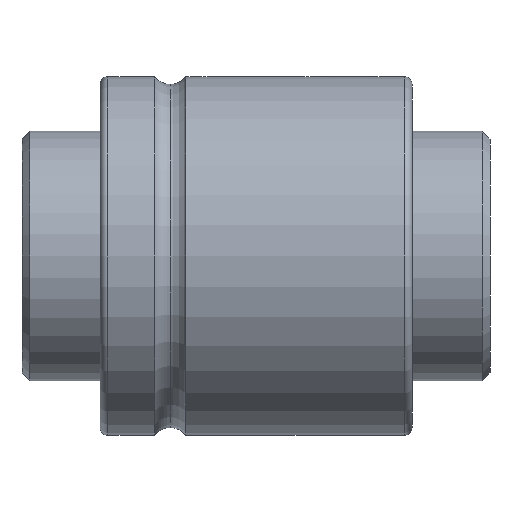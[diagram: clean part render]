
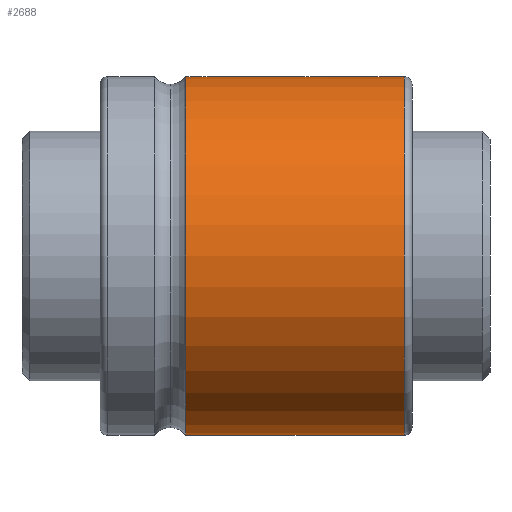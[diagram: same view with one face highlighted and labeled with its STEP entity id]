
A CAD part, front view. The second image highlights one B-rep face of the part: STEP entity #2688.
In plain terms, the highlighted cylindrical face has radius 23 mm (diameter 46 mm), a partial arc.
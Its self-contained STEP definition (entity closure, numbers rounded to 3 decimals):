
#12 = CYLINDRICAL_SURFACE ( 'NONE', #543, 23. ) ;
#80 = CARTESIAN_POINT ( 'NONE',  ( 27.5, 0., 23. ) ) ;
#94 = CARTESIAN_POINT ( 'NONE',  ( 27.193, -0.914, 22.982 ) ) ;
#124 = CARTESIAN_POINT ( 'NONE',  ( 27.5, -0.099, 23. ) ) ;
#141 = CARTESIAN_POINT ( 'NONE',  ( 26.923, -1.199, 22.969 ) ) ;
#177 = EDGE_LOOP ( 'NONE', ( #608, #1622, #1523, #950, #1438, #2061, #2363, #1037 ) ) ;
#185 = CARTESIAN_POINT ( 'NONE',  ( 14., -1.5, 22.951 ) ) ;
#415 = CARTESIAN_POINT ( 'NONE',  ( 26.756, -1.31, 22.963 ) ) ;
#417 = VERTEX_POINT ( 'NONE', #2076 ) ;
#440 = CARTESIAN_POINT ( 'NONE',  ( 26.395, -1.46, 22.954 ) ) ;
#464 = CARTESIAN_POINT ( 'NONE',  ( 27.5, 0., 23. ) ) ;
#496 = CARTESIAN_POINT ( 'NONE',  ( 13.249, -1.302, 22.963 ) ) ;
#522 = CARTESIAN_POINT ( 'NONE',  ( 12.801, -0.923, 22.982 ) ) ;
#534 = VERTEX_POINT ( 'NONE', #694 ) ;
#543 = AXIS2_PLACEMENT_3D ( 'NONE', #3304, #2310, #820 ) ;
#579 = CIRCLE ( 'NONE', #3855, 23. ) ;
#608 = ORIENTED_EDGE ( 'NONE', *, *, #3859, .F. ) ;
#653 = DIRECTION ( 'NONE',  ( -1., 0., 0. ) ) ;
#694 = CARTESIAN_POINT ( 'NONE',  ( 12.5, 0., 23. ) ) ;
#728 = CARTESIAN_POINT ( 'NONE',  ( 27.348, -0.665, 22.991 ) ) ;
#774 = CARTESIAN_POINT ( 'NONE',  ( 13.335, -1.348, 22.96 ) ) ;
#803 = DIRECTION ( 'NONE',  ( -1., 0., 0. ) ) ;
#820 = DIRECTION ( 'NONE',  ( 0., 0., 1. ) ) ;
#825 = EDGE_CURVE ( 'NONE', #3584, #534, #1677, .T. ) ;
#838 = DIRECTION ( 'NONE',  ( -1., 0., 0. ) ) ;
#899 = VERTEX_POINT ( 'NONE', #1388 ) ;
#950 = ORIENTED_EDGE ( 'NONE', *, *, #2918, .T. ) ;
#957 = CARTESIAN_POINT ( 'NONE',  ( 39., 0., 0. ) ) ;
#1023 = CARTESIAN_POINT ( 'NONE',  ( 26.198, -1.5, 22.951 ) ) ;
#1037 = ORIENTED_EDGE ( 'NONE', *, *, #3014, .T. ) ;
#1086 = CARTESIAN_POINT ( 'NONE',  ( 13.612, -1.452, 22.954 ) ) ;
#1097 = VERTEX_POINT ( 'NONE', #1329 ) ;
#1127 = CARTESIAN_POINT ( 'NONE',  ( 13.804, -1.49, 22.952 ) ) ;
#1196 = FACE_OUTER_BOUND ( 'NONE', #177, .T. ) ;
#1210 = DIRECTION ( 'NONE',  ( -1., 0., 0. ) ) ;
#1329 = CARTESIAN_POINT ( 'NONE',  ( 11., 0., -23. ) ) ;
#1388 = CARTESIAN_POINT ( 'NONE',  ( 39., 0., 23. ) ) ;
#1399 = CARTESIAN_POINT ( 'NONE',  ( 11., 0., 0. ) ) ;
#1403 = CARTESIAN_POINT ( 'NONE',  ( 12.69, -0.756, 22.988 ) ) ;
#1407 = LINE ( 'NONE', #3703, #1808 ) ;
#1438 = ORIENTED_EDGE ( 'NONE', *, *, #3305, .T. ) ;
#1471 = EDGE_CURVE ( 'NONE', #534, #3919, #1407, .T. ) ;
#1482 = VECTOR ( 'NONE', #3480, 1000. ) ;
#1523 = ORIENTED_EDGE ( 'NONE', *, *, #2375, .T. ) ;
#1575 = CARTESIAN_POINT ( 'NONE',  ( 39., 0., -23. ) ) ;
#1622 = ORIENTED_EDGE ( 'NONE', *, *, #2084, .T. ) ;
#1677 = B_SPLINE_CURVE_WITH_KNOTS ( 'NONE', 3,
 ( #3306, #2366, #1127, #1086, #3615, #774, #496, #3268, #2667, #522, #1403, #2972, #3573, #3004 ),
 .UNSPECIFIED., .F., .F.,
 ( 4, 2, 2, 2, 2, 2, 4 ),
 ( -0.002, -0.002, -0.002, -0.001, -0.001, -0.001, 0. ),
 .UNSPECIFIED. ) ;
#1709 = VECTOR ( 'NONE', #803, 1000. ) ;
#1742 = CARTESIAN_POINT ( 'NONE',  ( 40., 0., -23. ) ) ;
#1808 = VECTOR ( 'NONE', #1210, 1000. ) ;
#1813 = VECTOR ( 'NONE', #838, 1000. ) ;
#1941 = DIRECTION ( 'NONE',  ( 1., 0., 0. ) ) ;
#1979 = CARTESIAN_POINT ( 'NONE',  ( 27.49, -0.196, 22.999 ) ) ;
#2061 = ORIENTED_EDGE ( 'NONE', *, *, #825, .T. ) ;
#2076 = CARTESIAN_POINT ( 'NONE',  ( 26., -1.5, 22.951 ) ) ;
#2084 = EDGE_CURVE ( 'NONE', #2899, #899, #579, .T. ) ;
#2175 = CARTESIAN_POINT ( 'NONE',  ( 40., -1.5, 22.951 ) ) ;
#2265 = CARTESIAN_POINT ( 'NONE',  ( 27.302, -0.751, 22.988 ) ) ;
#2276 = CARTESIAN_POINT ( 'NONE',  ( 27.13, -0.991, 22.979 ) ) ;
#2310 = DIRECTION ( 'NONE',  ( -1., 0., 0. ) ) ;
#2363 = ORIENTED_EDGE ( 'NONE', *, *, #1471, .T. ) ;
#2366 = CARTESIAN_POINT ( 'NONE',  ( 13.901, -1.5, 22.951 ) ) ;
#2375 = EDGE_CURVE ( 'NONE', #899, #2561, #2668, .T. ) ;
#2561 = VERTEX_POINT ( 'NONE', #464 ) ;
#2667 = CARTESIAN_POINT ( 'NONE',  ( 13.009, -1.13, 22.972 ) ) ;
#2668 = LINE ( 'NONE', #2997, #1813 ) ;
#2688 = ADVANCED_FACE ( 'NONE', ( #1196 ), #12, .T. ) ;
#2702 = AXIS2_PLACEMENT_3D ( 'NONE', #1399, #1941, #3828 ) ;
#2889 = CARTESIAN_POINT ( 'NONE',  ( 27.423, -0.483, 22.995 ) ) ;
#2899 = VERTEX_POINT ( 'NONE', #1575 ) ;
#2918 = EDGE_CURVE ( 'NONE', #2561, #417, #3815, .T. ) ;
#2919 = CARTESIAN_POINT ( 'NONE',  ( 26., -1.5, 22.951 ) ) ;
#2931 = CARTESIAN_POINT ( 'NONE',  ( 27.452, -0.388, 22.997 ) ) ;
#2972 = CARTESIAN_POINT ( 'NONE',  ( 12.54, -0.395, 22.997 ) ) ;
#2997 = CARTESIAN_POINT ( 'NONE',  ( 40., 0., 23. ) ) ;
#3004 = CARTESIAN_POINT ( 'NONE',  ( 12.5, 0., 23. ) ) ;
#3014 = EDGE_CURVE ( 'NONE', #3919, #1097, #3621, .T. ) ;
#3268 = CARTESIAN_POINT ( 'NONE',  ( 13.086, -1.193, 22.969 ) ) ;
#3304 = CARTESIAN_POINT ( 'NONE',  ( 40., 0., 0. ) ) ;
#3305 = EDGE_CURVE ( 'NONE', #417, #3584, #3474, .T. ) ;
#3306 = CARTESIAN_POINT ( 'NONE',  ( 14., -1.5, 22.951 ) ) ;
#3331 = LINE ( 'NONE', #1742, #1709 ) ;
#3452 = DIRECTION ( 'NONE',  ( 0., 0., -1. ) ) ;
#3474 = LINE ( 'NONE', #2175, #1482 ) ;
#3480 = DIRECTION ( 'NONE',  ( -1., 0., 0. ) ) ;
#3573 = CARTESIAN_POINT ( 'NONE',  ( 12.5, -0.198, 23. ) ) ;
#3584 = VERTEX_POINT ( 'NONE', #185 ) ;
#3615 = CARTESIAN_POINT ( 'NONE',  ( 13.517, -1.423, 22.956 ) ) ;
#3621 = CIRCLE ( 'NONE', #2702, 23. ) ;
#3703 = CARTESIAN_POINT ( 'NONE',  ( 40., 0., 23. ) ) ;
#3815 = B_SPLINE_CURVE_WITH_KNOTS ( 'NONE', 3,
 ( #80, #124, #1979, #2931, #2889, #728, #2265, #94, #2276, #141, #415, #440, #1023, #2919 ),
 .UNSPECIFIED., .F., .F.,
 ( 4, 2, 2, 2, 2, 2, 4 ),
 ( 0.002, 0.003, 0.003, 0.003, 0.004, 0.004, 0.005 ),
 .UNSPECIFIED. ) ;
#3828 = DIRECTION ( 'NONE',  ( 0., 0., 1. ) ) ;
#3855 = AXIS2_PLACEMENT_3D ( 'NONE', #957, #653, #3452 ) ;
#3859 = EDGE_CURVE ( 'NONE', #2899, #1097, #3331, .T. ) ;
#3919 = VERTEX_POINT ( 'NONE', #3991 ) ;
#3991 = CARTESIAN_POINT ( 'NONE',  ( 11., 0., 23. ) ) ;
